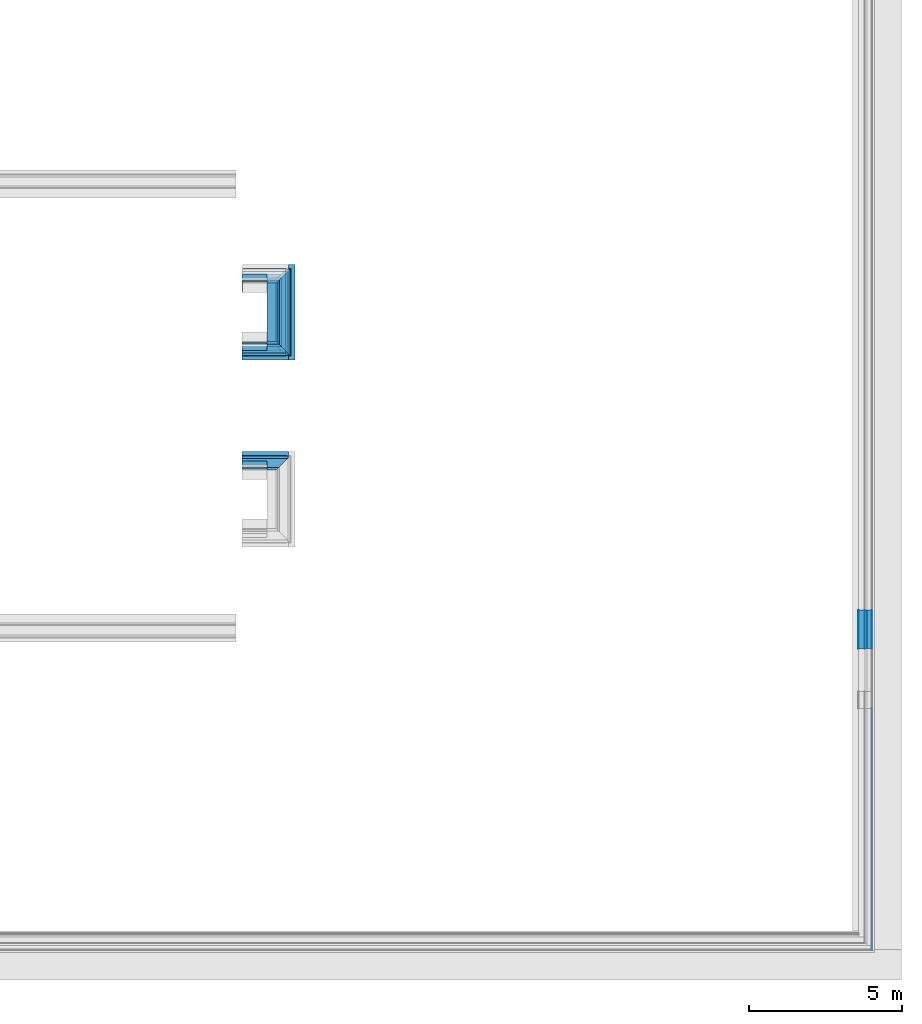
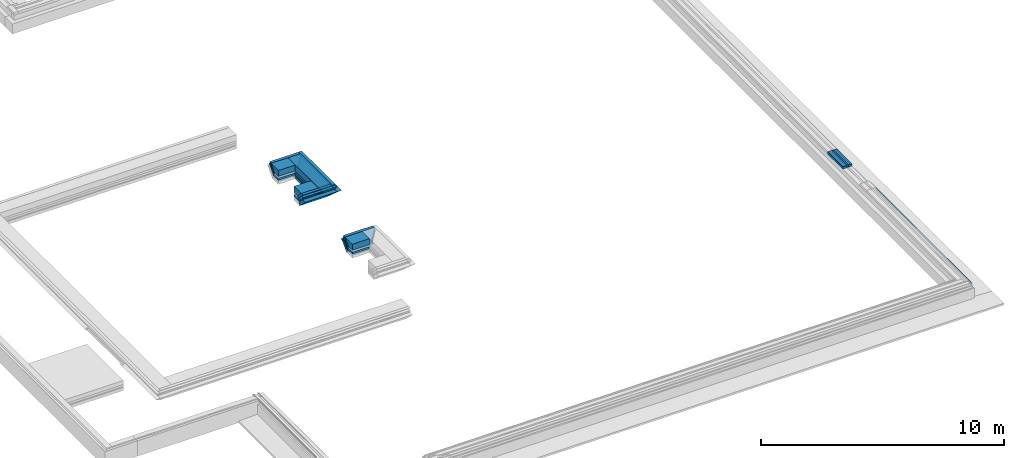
# One storey, part 10 of 17: 32 building element parts, 6 elements without a shape of their own.
"""IFC2X3 building model written with IfcOpenShell, lengths in millimetres."""

from ifc_helpers import new_model, entity, si_unit, converted_unit, derived_unit, money_unit, direction, frame, origin_with_axes, place, context, subcontext, project, spatial, faceted_brep, material, type_object, element, aggregate, save


model = new_model("IFC2X3")

# Units and contexts
model_context = context("Model", 3, precision=0.01, world=origin_with_axes(), true_north=direction((0.0, 1.0)))
body_context = subcontext(model_context, "Body", "Model", "MODEL_VIEW")
ifc_project = project(units=[si_unit("LENGTHUNIT", "METRE", prefix="MILLI"), si_unit("AREAUNIT", "SQUARE_METRE"), si_unit("VOLUMEUNIT", "CUBIC_METRE"), converted_unit("PLANEANGLEUNIT", "DEGREE", entity("IfcPlaneAngleMeasure", 0.0174532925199), si_unit("PLANEANGLEUNIT", "RADIAN"), dimensions=[0, 0, 0, 0, 0, 0, 0]), money_unit("EUR"), converted_unit("TIMEUNIT", "Year", entity("IfcTimeMeasure", 31556926.0), si_unit("TIMEUNIT", "SECOND"), dimensions=[0, 0, 1, 0, 0, 0, 0]), si_unit("MASSUNIT", "GRAM", prefix="KILO"), si_unit("THERMODYNAMICTEMPERATUREUNIT", "DEGREE_CELSIUS"), si_unit("LUMINOUSINTENSITYUNIT", "LUMEN"), si_unit("ENERGYUNIT", "JOULE", prefix="MEGA"), derived_unit("THERMALCONDUCTANCEUNIT", [(si_unit("POWERUNIT", "WATT"), 1), (si_unit("LENGTHUNIT", "METRE"), -1), (si_unit("THERMODYNAMICTEMPERATUREUNIT", "KELVIN"), -1)]), derived_unit("SPECIFICHEATCAPACITYUNIT", [(si_unit("ENERGYUNIT", "JOULE"), 1), (si_unit("MASSUNIT", "GRAM", prefix="KILO"), -1), (si_unit("THERMODYNAMICTEMPERATUREUNIT", "KELVIN"), -1)]), derived_unit("MASSDENSITYUNIT", [(si_unit("MASSUNIT", "GRAM", prefix="KILO"), 1), (si_unit("VOLUMEUNIT", "CUBIC_METRE"), -1)])], contexts=[model_context])

# Site, building, storey
site_placement = place(None, origin_with_axes())
site = spatial("IfcSite", under=ifc_project, at=site_placement, Name="Kolde pst 67a", CompositionType="ELEMENT")
building_placement = place(site_placement, origin_with_axes())
building = spatial("IfcBuilding", under=site, at=building_placement, Name="Riigigümnaasium", CompositionType="ELEMENT")
storey_placement = place(building_placement, frame((0.0, 0.0, -1500.0), z_axis=(0.0, 0.0, 1.0), x_axis=(1.0, 0.0, 0.0)))
storey = spatial("IfcBuildingStorey", under=building, at=storey_placement, Name="Vundament", CompositionType="ELEMENT", Elevation=-1500.0)

# Wall, building element parts
wall_type_1 = type_object("IfcWallType", Name="garderoobi plaadipaksendus 916 x 700", PredefinedType="NOTDEFINED")
wall_1_placement = place(storey_placement, frame((65234.9400224, 15464.9849226, 1095.0000029), z_axis=(0.0, 0.0, 1.0), x_axis=(-0.999999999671, -2.56425605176e-05, 0.0)))
wall_1 = element("IfcWall", 1, at=wall_1_placement, inside=storey, type_object=wall_type_1, Name="Vundament")
ifc_material_1 = material(Name="_KANDETARIND - monoliitne raudbetoon vastavalt EK osale")
building_element_part_1_placement = place(wall_1_placement, origin_with_axes())
building_element_part_1 = element("IfcBuildingElementPart", 2, at=building_element_part_1_placement, material=ifc_material_1, Name="_KANDETARIND - monoliitne raudbetoon vastavalt EK osale", context=body_context, shape_type="Brep", body=[
    faceted_brep([(1105.45068558, 295.0, 304.9), (1105.45068558, 295.0, 5.0), (294.998691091, 295.0, 5.0), (294.998691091, 295.0, 304.899996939), (1105.45068558, 86.6753466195, 4.99999671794), (1105.45068558, -304.9, 304.9), (1105.45068558, -5.0, 5.0), (294.999615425, 86.6753466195, 4.99999671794), (295.000022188, -5.0, 5.00000020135), (295.001352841, -304.899997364, 304.899996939)], [[[0, 1, 2, 3]], [[4, 1, 0, 5, 6]], [[1, 4, 7, 2]], [[3, 2, 7, 8, 9]], [[5, 0, 3, 9]], [[6, 5, 9, 8]], [[4, 6, 8, 7]]]),
])
ifc_material_2 = material(Name="_SOOJUSTUS - vahtpolüstüreenplaadid EPS 120 Perimeeter, survetugevus min 120kPa, veeimavus <2%, soojuserijuhtivus λD<0,036 W/(mK)")
building_element_part_2_placement = place(wall_1_placement, origin_with_axes())
building_element_part_2 = element("IfcBuildingElementPart", 3, at=building_element_part_2_placement, material=ifc_material_2, Name="_SOOJUSTUS - vahtpolüstüreenplaadid EPS 120 Perimeeter, survetugevus min 120kPa, veeimavus <2%, soojuserijuhtivus λD<0,036 W/(mK)", context=body_context, shape_type="Brep", body=[
    faceted_brep([(-87.7841283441, -87.7674389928, -195.199618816), (-87.7858266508, 294.993583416, -195.199618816), (-87.80287848, 294.993583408, -195.240796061), (-87.8011800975, -87.7845121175, -195.240796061), (-87.768755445, 294.993583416, -195.199624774), (-87.7670571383, -87.7674440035, -195.199624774), (-87.7858210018, 294.993583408, -195.240792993), (-87.7841226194, -87.7845121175, -195.240792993)], [[[0, 1, 2, 3]], [[4, 1, 0, 5]], [[1, 4, 6, 2]], [[6, 7, 3, 2]], [[5, 0, 3, 7]], [[7, 6, 4, 5]]]),
    faceted_brep([(294.992293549, 294.993602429, -95.2407929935), (1105.45068558, 294.993602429, -95.2407899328), (1105.45068558, 294.993583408, -195.240789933), (294.992274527, 294.993583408, -195.240792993), (294.993807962, -46.3219876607, -95.2407929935), (1105.45068558, -46.3219876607, -95.2407899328), (1105.45068558, -87.7845121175, -195.240789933), (294.99397291, -87.7845121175, -195.240792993)], [[[0, 1, 2, 3]], [[0, 4, 5, 1]], [[1, 5, 6, 2]], [[6, 7, 3, 2]], [[4, 0, 3, 7]], [[4, 7, 6, 5]]]),
])
building_element_part_3_placement = place(wall_1_placement, origin_with_axes())
building_element_part_3 = element("IfcBuildingElementPart", 4, at=building_element_part_3_placement, material=ifc_material_2, Name="_SOOJUSTUS - vahtpolüstüreenplaadid EPS 120 Perimeeter, survetugevus min 120kPa, veeimavus <2%, soojuserijuhtivus λD<0,036 W/(mK)", context=body_context, shape_type="Brep", body=[
    faceted_brep([(1105.45068558, -5.00000235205, 4.99999706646), (1105.45068558, -4.95922979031, 4.95922450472), (-4.9592077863, -4.95923144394, 4.95922050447), (-4.99998016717, -4.99999929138, 4.99999400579), (1105.45068558, -46.3388389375, -95.1407949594), (1105.45068558, -304.900000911, 304.899995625), (1105.45068558, -446.316090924, 304.899995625), (1105.45068558, -46.3616066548, -95.1958725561), (-46.338633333, -46.3388402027, -95.1407980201), (-4.95857985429, -146.481307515, 4.95922050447), (-4.99935223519, -146.522066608, 4.99999400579), (-304.898648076, -304.899996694, 304.899992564), (-304.898020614, -446.316086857, 304.899992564), (-46.3386329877, -46.416662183, -95.1407980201), (-46.3667023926, -46.3616066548, -95.1958725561)], [[[0, 1, 2, 3]], [[4, 1, 0, 5, 6, 7]], [[1, 4, 8, 2]], [[3, 2, 9, 10]], [[0, 3, 11, 5]], [[6, 5, 11, 12]], [[7, 6, 12, 10, 9, 13, 14]], [[4, 7, 14, 8]], [[2, 8, 13, 9]], [[3, 10, 12, 11]], [[14, 13, 8]]]),
])
building_element_part_4_placement = place(wall_1_placement, origin_with_axes())
building_element_part_4 = element("IfcBuildingElementPart", 5, at=building_element_part_4_placement, material=ifc_material_2, Name="_SOOJUSTUS - vahtpolüstüreenplaadid EPS 120 Perimeeter, survetugevus min 120kPa, veeimavus <2%, soojuserijuhtivus λD<0,036 W/(mK)", context=body_context, shape_type="Brep", body=[
    faceted_brep([(-87.7841213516, -87.7845121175, -195.199621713), (-46.3623226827, -187.784510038, -95.1996247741), (-46.3629501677, -46.3631571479, -95.1996247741), (1105.45068558, -87.7845121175, -195.199621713), (1105.45068558, -387.784135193, 104.800001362), (-246.361058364, -387.784137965, 104.799998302), (-346.361240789, -346.362774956, 204.799996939), (-346.360613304, -487.784133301, 204.799996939), (1105.45068558, -46.3631558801, -95.1996217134), (1105.45068558, -346.362777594, 204.8), (1105.45068558, -487.784133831, 204.8)], [[[0, 1, 2]], [[3, 4, 5, 1, 0]], [[6, 2, 1, 5, 7]], [[8, 3, 0, 2]], [[3, 8, 9, 10, 4]], [[4, 10, 7, 5]], [[8, 2, 6, 9]], [[10, 9, 6, 7]]]),
])
ifc_material_3 = material(Name="_TÄIDE - tasandus-/tugevduskiht, pinnasesse tambitud killustik E=80MPa, kiilutud fr 4/16")
building_element_part_5_placement = place(wall_1_placement, origin_with_axes())
building_element_part_5 = element("IfcBuildingElementPart", 6, at=building_element_part_5_placement, material=ifc_material_3, Name="_TÄIDE - tasandus-/tugevduskiht, pinnasesse tambitud killustik E=80MPa, kiilutud fr 4/16", context=body_context, shape_type="Brep", body=[
    faceted_brep([(-87.8011842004, -87.8015708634, -195.240796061), (-87.7841282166, -87.8015711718, -195.240796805), (-87.7838147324, -158.454012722, -195.240796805), (-87.8008707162, -158.454013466, -195.240796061), (1105.45068558, -87.7845147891, -195.199619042), (1105.45068558, -108.495187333, -245.199621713), (-108.494710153, -108.495186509, -245.199619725), (-87.784125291, -87.7845160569, -195.199622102), (1105.45068558, -408.494810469, 54.799999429), (-337.782320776, -408.494807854, 54.7999963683), (-87.7838115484, -158.495187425, -195.199622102), (1105.45068558, -387.784135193, 104.800001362), (1105.45068558, -458.494810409, 104.800001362), (-387.782414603, -387.784135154, 104.799998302), (-387.782097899, -458.494810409, 104.79999534)], [[[0, 1, 2, 3]], [[4, 5, 6, 1, 0, 7]], [[1, 6, 2]], [[5, 8, 9, 10, 3, 2, 6]], [[10, 7, 0, 3]], [[5, 4, 11, 12, 8]], [[4, 7, 13, 11]], [[8, 12, 14, 9]], [[7, 10, 9, 14, 13]], [[12, 11, 13, 14]]]),
])
ifc_material_4 = material(Name="_TÄIDE - tasandus-/tugevduskiht, pinnasesse tambitud killustik E=80MPa, fr 16/32")
building_element_part_6_placement = place(wall_1_placement, origin_with_axes())
building_element_part_6 = element("IfcBuildingElementPart", 7, at=building_element_part_6_placement, material=ifc_material_4, Name="_TÄIDE - tasandus-/tugevduskiht, pinnasesse tambitud killustik E=80MPa, fr 16/32", context=body_context, shape_type="Brep", body=[
    faceted_brep([(1105.45068558, -108.495191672, -245.199619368), (1105.45068558, -170.189294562, -395.24078319), (-170.188539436, -170.189295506, -395.240786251), (-108.494710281, -108.495192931, -245.199622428), (1105.45068558, -408.494810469, 54.799999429), (1105.45068558, -620.626846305, 54.799999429), (1105.45068558, -170.304905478, -395.521941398), (-170.304141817, -170.304905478, -395.521944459), (-108.493769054, -320.627226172, -245.199622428), (-170.188537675, -170.586062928, -395.240786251), (-408.492997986, -408.494807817, 54.7999963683), (-408.492056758, -620.626844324, 54.7999963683)], [[[0, 1, 2, 3]], [[1, 0, 4, 5, 6]], [[1, 6, 7, 2]], [[8, 3, 2, 9]], [[0, 3, 10, 4]], [[5, 4, 10, 11]], [[8, 9, 7, 6, 5, 11]], [[2, 7, 9]], [[3, 8, 11, 10]]]),
])
aggregate(wall_1, [building_element_part_1, building_element_part_2, building_element_part_3, building_element_part_4, building_element_part_5, building_element_part_6])

wall_2_placement = place(storey_placement, frame((65234.813517, 19675.0828991, 1094.99999984), z_axis=(0.0, 0.0, 1.0), x_axis=(-3.00546824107e-05, 0.999999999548, 0.0)))
wall_2 = element("IfcWall", 8, at=wall_2_placement, inside=storey, type_object=wall_type_1, Name="Vundament")
building_element_part_7_placement = place(wall_2_placement, origin_with_axes())
building_element_part_7 = element("IfcBuildingElementPart", 9, at=building_element_part_7_placement, material=ifc_material_1, Name="_KANDETARIND - monoliitne raudbetoon vastavalt EK osale", context=body_context, shape_type="Brep", body=[
    faceted_brep([(-4.99999139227, 295.0, 5.0), (-304.899990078, 295.0, 304.899998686), (2194.85716906, 295.0, 304.899998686), (1894.95717038, 295.0, 5.0), (-4.99999576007, 86.6753466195, 4.99999671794), (-5.00000109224, -5.00000000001, 4.99999868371), (-304.900012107, -304.899995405, 304.899998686), (2194.85714703, -304.899995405, 304.899998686), (1894.95715936, -5.00000000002, 5.0), (1894.95715944, 86.6753466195, 4.99999671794)], [[[0, 1, 2, 3]], [[1, 0, 4, 5, 6]], [[2, 1, 6, 7]], [[3, 2, 7, 8, 9]], [[0, 3, 9, 4]], [[4, 9, 8, 5]], [[6, 5, 8, 7]]]),
])
building_element_part_8_placement = place(wall_2_placement, origin_with_axes())
building_element_part_8 = element("IfcBuildingElementPart", 10, at=building_element_part_8_placement, material=ifc_material_2, Name="_SOOJUSTUS - vahtpolüstüreenplaadid EPS 120 Perimeeter, survetugevus min 120kPa, veeimavus <2%, soojuserijuhtivus λD<0,036 W/(mK)", context=body_context, shape_type="Brep", body=[
    faceted_brep([(-46.3388273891, 294.993597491, -95.1407918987), (1936.29600637, 294.993597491, -95.1407918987), (1936.29599384, -46.3388376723, -95.1407918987), (-46.3388399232, -46.3388376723, -95.1407918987), (-4.95921895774, 294.997848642, 4.95922662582), (86.6717528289, 294.997850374, 4.99999671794), (1803.28542615, 294.997850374, 4.99999671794), (1894.91639794, 294.997848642, 4.95922662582), (1894.9163879, -4.95922611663, 4.95922427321), (-4.95923094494, -4.95922611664, 4.95922427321), (86.6753439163, 86.6753466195, 4.99999751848), (1803.28181977, 86.6753466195, 4.99999751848)], [[[0, 1, 2, 3]], [[4, 5, 6, 7, 1, 0]], [[1, 7, 8, 2]], [[8, 9, 3, 2]], [[4, 0, 3, 9]], [[5, 4, 9, 10]], [[6, 5, 10, 11]], [[7, 6, 11, 8]], [[9, 8, 11, 10]]]),
])
building_element_part_9_placement = place(wall_2_placement, origin_with_axes())
building_element_part_9 = element("IfcBuildingElementPart", 11, at=building_element_part_9_placement, material=ifc_material_2, Name="_SOOJUSTUS - vahtpolüstüreenplaadid EPS 120 Perimeeter, survetugevus min 120kPa, veeimavus <2%, soojuserijuhtivus λD<0,036 W/(mK)", context=body_context, shape_type="Brep", body=[
    faceted_brep([(1977.74168592, 294.993583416, -195.199612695), (1977.74167186, -87.7674396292, -195.199612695), (1977.75872369, -87.7845121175, -195.24078994), (1977.75873775, 294.993583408, -195.24078994), (1977.72460066, -87.7674414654, -195.199618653), (1977.72461471, 294.993583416, -195.199618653), (1936.27914935, -46.3219876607, -95.240790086), (-46.321995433, -46.3219876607, -95.240790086), (-87.7674497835, -87.7674414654, -195.199618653), (-87.7845209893, -87.7674389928, -195.199612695), (-87.8015728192, -87.7845121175, -195.24078994), (-87.8015587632, 294.993583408, -195.24078994), (-87.784506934, 294.993583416, -195.199612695), (-87.7674357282, 294.993583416, -195.199618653), (-46.3219828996, 294.993602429, -95.240790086), (1936.27916188, 294.993602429, -95.240790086)], [[[0, 1, 2, 3]], [[4, 1, 0, 5]], [[4, 6, 7, 8, 9, 10, 2, 1]], [[3, 2, 10, 11]], [[5, 0, 3, 11, 12, 13, 14, 15]], [[6, 4, 5, 15]], [[6, 15, 14, 7]], [[8, 7, 14, 13]], [[9, 8, 13, 12]], [[9, 12, 11, 10]]]),
])
building_element_part_10_placement = place(wall_2_placement, origin_with_axes())
building_element_part_10 = element("IfcBuildingElementPart", 12, at=building_element_part_10_placement, material=ifc_material_3, Name="_TÄIDE - tasandus-/tugevduskiht, pinnasesse tambitud killustik E=80MPa, kiilutud fr 4/16", context=body_context, shape_type="Brep", body=[
    faceted_brep([(-108.512109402, 294.993573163, -245.240786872), (1998.46928839, 294.993573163, -245.240786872), (1998.46927357, -108.512245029, -245.240786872), (-108.512124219, -108.512245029, -245.240786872), (-108.49518084, 294.993573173, -245.199616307), (-87.7845079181, 294.993584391, -195.240793), (1977.7416869, 294.993584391, -195.240793), (1998.45235982, 294.993573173, -245.199616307), (1998.45234501, -108.495190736, -245.199616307), (-108.495195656, -108.495190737, -245.199616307), (-87.7845219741, -87.7845113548, -195.240793), (1977.74167285, -87.7845113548, -195.240793)], [[[0, 1, 2, 3]], [[1, 0, 4, 5, 6, 7]], [[1, 7, 8, 2]], [[2, 8, 9, 3]], [[4, 0, 3, 9]], [[5, 4, 9, 10]], [[11, 6, 5, 10]], [[7, 6, 11, 8]], [[11, 10, 9, 8]]]),
])
building_element_part_11_placement = place(wall_2_placement, origin_with_axes())
building_element_part_11 = element("IfcBuildingElementPart", 13, at=building_element_part_11_placement, material=ifc_material_4, Name="_TÄIDE - tasandus-/tugevduskiht, pinnasesse tambitud killustik E=80MPa, fr 16/32", context=body_context, shape_type="Brep", body=[
    faceted_brep([(2060.14646271, 294.99354324, -395.24078013), (2060.14644563, -170.189294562, -395.24078013), (-170.189300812, -170.189294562, -395.24078013), (-170.18928373, 294.99354324, -395.24078013), (1998.46927357, -108.512240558, -245.240786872), (1998.46928839, 294.993570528, -245.240786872), (-108.512124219, -108.512240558, -245.240786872), (-108.512109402, 294.993570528, -245.240786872)], [[[0, 1, 2, 3]], [[4, 1, 0, 5]], [[1, 4, 6, 2]], [[3, 2, 6, 7]], [[5, 0, 3, 7]], [[4, 5, 7, 6]]]),
])
building_element_part_12_placement = place(wall_2_placement, origin_with_axes())
building_element_part_12 = element("IfcBuildingElementPart", 14, at=building_element_part_12_placement, material=ifc_material_2, Name="_SOOJUSTUS - vahtpolüstüreenplaadid EPS 120 Perimeeter, survetugevus min 120kPa, veeimavus <2%, soojuserijuhtivus λD<0,036 W/(mK)", context=body_context, shape_type="Brep", body=[
    faceted_brep([(-46.4219812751, -46.3388389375, -95.1407949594), (-146.481313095, -4.95923544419, 4.95923015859), (2036.4384644, -4.95922979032, 4.95922450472), (1936.37913825, -46.3388376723, -95.1407918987), (-46.4219843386, -46.4166713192, -95.1407918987), (-146.481318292, -146.481318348, 4.95923015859), (-146.522066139, -5.00000235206, 4.99999706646), (2036.47922306, -5.00000235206, 4.99999706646), (1936.37913825, -46.4166713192, -95.1407918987), (2036.43846485, -146.481318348, 4.95923015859), (-46.3669036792, -46.3616066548, -95.1958725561), (1936.32405759, -46.3616066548, -95.1958725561), (2336.27322178, -446.316090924, 304.90000478), (-446.316097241, -446.316090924, 304.90000478), (-446.316092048, -304.900000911, 304.90000478), (-346.25148138, -204.800010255, 204.800004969), (2336.27322697, -304.900000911, 304.90000478), (2236.20862366, -204.800010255, 204.800004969)], [[[0, 1, 2, 3]], [[1, 0, 4, 5]], [[1, 6, 7, 2]], [[8, 3, 2, 9]], [[10, 0, 3, 11]], [[0, 10, 4]], [[11, 8, 9, 12, 13, 5, 4, 10]], [[6, 1, 5, 13, 14, 15]], [[7, 6, 15, 14, 16, 17]], [[2, 7, 17, 16, 12, 9]], [[8, 11, 3]], [[14, 13, 12, 16]]]),
])
building_element_part_13_placement = place(wall_2_placement, origin_with_axes())
building_element_part_13 = element("IfcBuildingElementPart", 15, at=building_element_part_13_placement, material=ifc_material_2, Name="_SOOJUSTUS - vahtpolüstüreenplaadid EPS 120 Perimeeter, survetugevus min 120kPa, veeimavus <2%, soojuserijuhtivus λD<0,036 W/(mK)", context=body_context, shape_type="Brep", body=[
    faceted_brep([(-87.7845180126, -87.7845108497, -195.199618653), (-187.784510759, -46.3631558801, -95.1996217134), (2077.74166467, -46.3631558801, -95.1996217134), (1977.74166888, -87.7845108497, -195.199618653), (-387.784153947, -387.784135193, 104.799999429), (-487.784163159, -487.784133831, 204.800004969), (-487.784157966, -346.362777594, 204.800004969), (2377.74128985, -346.362777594, 204.800004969), (2377.74128465, -487.784133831, 204.800004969), (2277.74128279, -387.784135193, 104.799999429)], [[[0, 1, 2, 3]], [[1, 0, 4, 5, 6]], [[1, 6, 7, 2]], [[3, 2, 7, 8, 9]], [[0, 3, 9, 4]], [[5, 4, 9, 8]], [[6, 5, 8, 7]]]),
])
building_element_part_14_placement = place(wall_2_placement, origin_with_axes())
building_element_part_14 = element("IfcBuildingElementPart", 16, at=building_element_part_14_placement, material=ifc_material_3, Name="_TÄIDE - tasandus-/tugevduskiht, pinnasesse tambitud killustik E=80MPa, kiilutud fr 4/16", context=body_context, shape_type="Brep", body=[
    faceted_brep([(-87.7845210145, -87.8015686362, -195.240790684), (-87.8015769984, -87.8015683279, -195.24078994), (-108.495195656, -108.495186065, -245.199618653), (-158.495192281, -87.7845147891, -195.199619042), (2048.45234291, -87.7845147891, -195.199619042), (1998.45234488, -108.495183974, -245.199613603), (1977.75872787, -87.8015683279, -195.24078994), (1977.74167188, -87.8015686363, -195.240790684), (1998.45234488, -108.495183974, -245.199613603), (-108.495195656, -108.495186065, -245.199618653), (-87.7845236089, -158.454017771, -195.240790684), (-87.8015795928, -158.454018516, -195.24078994), (-408.494821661, -408.494810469, 54.8000049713), (-458.494817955, -458.494810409, 104.799999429), (-458.494815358, -387.784135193, 104.799999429), (2348.4519442, -387.784135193, 104.799999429), (2348.4519416, -458.494810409, 104.799999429), (2298.45194898, -408.494810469, 54.8000049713), (1977.75872527, -158.454018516, -195.24078994), (1977.74166929, -158.454017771, -195.240790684)], [[[0, 1, 2, 3, 4, 5, 6, 7, 8, 9]], [[1, 0, 10, 11]], [[2, 1, 11]], [[3, 2, 12, 13, 14]], [[4, 3, 14, 15]], [[5, 4, 15, 16, 17]], [[6, 5, 18]], [[7, 6, 18, 19]], [[8, 7, 19]], [[9, 8, 19, 18, 5, 17, 12, 2, 11, 10]], [[0, 9, 10]], [[13, 12, 17, 16]], [[14, 13, 16, 15]]]),
])
building_element_part_15_placement = place(wall_2_placement, origin_with_axes())
building_element_part_15 = element("IfcBuildingElementPart", 17, at=building_element_part_15_placement, material=ifc_material_4, Name="_TÄIDE - tasandus-/tugevduskiht, pinnasesse tambitud killustik E=80MPa, fr 16/32", context=body_context, shape_type="Brep", body=[
    faceted_brep([(2060.26204852, -170.304905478, -395.521938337), (2510.58397529, -620.626846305, 54.8000049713), (-620.626863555, -620.626846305, 54.8000049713), (-170.30490371, -170.304905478, -395.521938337), (2510.58398308, -408.494810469, 54.8000049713), (2060.54320367, -170.189294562, -395.24078319), (2210.58436976, -108.495191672, -245.199619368), (-620.626855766, -408.494810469, 54.8000049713), (-320.627220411, -108.495191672, -245.199619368), (-170.586058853, -170.189294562, -395.24078319)], [[[0, 1, 2, 3]], [[4, 1, 0, 5, 6]], [[1, 4, 7, 2]], [[3, 2, 7, 8, 9]], [[5, 0, 3, 9]], [[6, 5, 9, 8]], [[4, 6, 8, 7]]]),
])
aggregate(wall_2, [building_element_part_7, building_element_part_8, building_element_part_9, building_element_part_10, building_element_part_11, building_element_part_12, building_element_part_13, building_element_part_14, building_element_part_15])

wall_3_placement = place(storey_placement, frame((64129.5733688, 19675.049722, 1095.0000029), z_axis=(0.0, 0.0, 1.0), x_axis=(0.999999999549, 3.00179615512e-05, 0.0)))
wall_3 = element("IfcWall", 18, at=wall_3_placement, inside=storey, type_object=wall_type_1, Name="Vundament")
building_element_part_16_placement = place(wall_3_placement, origin_with_axes())
building_element_part_16 = element("IfcBuildingElementPart", 19, at=building_element_part_16_placement, material=ifc_material_1, Name="_KANDETARIND - monoliitne raudbetoon vastavalt EK osale", context=body_context, shape_type="Brep", body=[
    faceted_brep([(0.0, -304.9, 304.9), (0.0, -5.0, 5.0), (810.240148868, -5.0, 5.0), (810.24015988, -304.899997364, 304.899996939), (0.0, 86.6753466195, 4.99999671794), (0.0, 295.0, 304.9), (0.0, 295.0, 5.0), (810.240145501, 86.6753466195, 4.99999671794), (810.240137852, 295.0, 5.0), (810.240137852, 295.0, 304.899996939)], [[[0, 1, 2, 3]], [[4, 1, 0, 5, 6]], [[1, 4, 7, 2]], [[2, 7, 8, 9, 3]], [[5, 0, 3, 9]], [[6, 5, 9, 8]], [[4, 6, 8, 7]]]),
])
building_element_part_17_placement = place(wall_3_placement, origin_with_axes())
building_element_part_17 = element("IfcBuildingElementPart", 20, at=building_element_part_17_placement, material=ifc_material_2, Name="_SOOJUSTUS - vahtpolüstüreenplaadid EPS 120 Perimeeter, survetugevus min 120kPa, veeimavus <2%, soojuserijuhtivus λD<0,036 W/(mK)", context=body_context, shape_type="Brep", body=[
    faceted_brep([(1193.02465562, 294.993583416, -195.199618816), (1193.02466967, -87.7674396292, -195.199618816), (1193.0417215, -87.7845121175, -195.240796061), (1193.04170745, 294.993583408, -195.240796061), (1193.00759847, -87.7674440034, -195.199624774), (1193.00758441, 294.993583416, -195.199624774), (1193.02466403, -87.7845121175, -195.240792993), (1193.02464997, 294.993583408, -195.240792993)], [[[0, 1, 2, 3]], [[4, 1, 0, 5]], [[1, 4, 6, 2]], [[6, 7, 3, 2]], [[5, 0, 3, 7]], [[7, 6, 4, 5]]]),
    faceted_brep([(810.246547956, -46.3219876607, -95.2407929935), (0.0, -46.3219876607, -95.2407899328), (0.0, -87.7845121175, -195.240789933), (810.2465685, -87.7845121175, -195.240792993), (810.246535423, 294.993602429, -95.2407929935), (0.0, 294.993602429, -95.2407899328), (0.0, 294.993583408, -195.240789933), (810.246554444, 294.993583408, -195.240792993)], [[[0, 1, 2, 3]], [[0, 4, 5, 1]], [[2, 1, 5, 6]], [[6, 7, 3, 2]], [[4, 0, 3, 7]], [[4, 7, 6, 5]]]),
])
building_element_part_18_placement = place(wall_3_placement, origin_with_axes())
building_element_part_18 = element("IfcBuildingElementPart", 21, at=building_element_part_18_placement, material=ifc_material_2, Name="_SOOJUSTUS - vahtpolüstüreenplaadid EPS 120 Perimeeter, survetugevus min 120kPa, veeimavus <2%, soojuserijuhtivus λD<0,036 W/(mK)", context=body_context, shape_type="Brep", body=[
    faceted_brep([(0.0, -446.316090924, 304.899995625), (0.0, -46.3616066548, -95.1958725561), (1151.60705848, -46.3616066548, -95.1958725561), (1151.57898933, -46.416662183, -95.1407980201), (1110.19938397, -146.481307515, 4.95922050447), (1110.24015642, -146.522066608, 4.99999400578), (1410.14016598, -446.316086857, 304.899992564), (0.0, -304.900000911, 304.899995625), (0.0, -5.00000235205, 4.99999706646), (0.0, -4.95922979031, 4.95922450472), (0.0, -46.3388389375, -95.1407949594), (1151.57898932, -46.3388402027, -95.1407980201), (1110.19937876, -4.95923144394, 4.95922050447), (1110.24015122, -4.99999929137, 4.99999400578), (1410.14016079, -304.899996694, 304.899992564)], [[[0, 1, 2, 3, 4, 5, 6]], [[1, 0, 7, 8, 9, 10]], [[1, 10, 11, 2]], [[3, 2, 11]], [[4, 3, 11, 12]], [[5, 4, 12, 13]], [[6, 5, 13, 14]], [[7, 0, 6, 14]], [[8, 7, 14, 13]], [[9, 8, 13, 12]], [[10, 9, 12, 11]]]),
])
building_element_part_19_placement = place(wall_3_placement, origin_with_axes())
building_element_part_19 = element("IfcBuildingElementPart", 22, at=building_element_part_19_placement, material=ifc_material_2, Name="_SOOJUSTUS - vahtpolüstüreenplaadid EPS 120 Perimeeter, survetugevus min 120kPa, veeimavus <2%, soojuserijuhtivus λD<0,036 W/(mK)", context=body_context, shape_type="Brep", body=[
    faceted_brep([(0.0, -387.784135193, 104.800001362), (0.0, -487.784133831, 204.8), (0.0, -346.362777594, 204.8), (0.0, -46.3631558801, -95.1996217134), (0.0, -87.7845121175, -195.199621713), (1351.6029412, -387.784135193, 104.799997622), (1451.60294419, -487.7841333, 204.799996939), (1451.602939, -346.362774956, 204.799996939), (1151.60330627, -46.3631571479, -95.1996247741), (1193.02466276, -87.7845121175, -195.199621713), (1151.60331146, -187.784510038, -95.1996247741)], [[[0, 1, 2, 3, 4]], [[1, 0, 5, 6]], [[2, 1, 6, 7]], [[3, 2, 7, 8]], [[4, 3, 8, 9]], [[0, 4, 9, 10, 5]], [[5, 10, 8, 7, 6]], [[9, 8, 10]]]),
])
building_element_part_20_placement = place(wall_3_placement, origin_with_axes())
building_element_part_20 = element("IfcBuildingElementPart", 23, at=building_element_part_20_placement, material=ifc_material_3, Name="_TÄIDE - tasandus-/tugevduskiht, pinnasesse tambitud killustik E=80MPa, kiilutud fr 4/16", context=body_context, shape_type="Brep", body=[
    faceted_brep([(0.0, -408.494810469, 54.799999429), (0.0, -458.494810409, 104.800001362), (0.0, -387.784135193, 104.800001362), (0.0, -87.7845147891, -195.199619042), (0.0, -108.495187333, -245.199621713), (1443.02429694, -408.494807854, 54.7999963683), (1493.02429608, -458.494810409, 104.799993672), (1493.02429812, -387.784135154, 104.799998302), (1193.0246667, -87.7845160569, -195.199622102), (1193.04172568, -87.8015708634, -195.240796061), (1193.0246697, -87.8015711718, -195.240796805), (1213.73534421, -108.495186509, -245.199619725), (1193.02467229, -158.454012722, -195.240796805), (1193.04172828, -158.454013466, -195.240796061), (1193.02466929, -158.495187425, -195.199622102)], [[[0, 1, 2, 3, 4]], [[1, 0, 5, 6]], [[2, 1, 6, 7]], [[3, 2, 7, 8]], [[4, 3, 8, 9, 10, 11]], [[0, 4, 11, 12, 13, 14, 5]], [[14, 8, 7, 6, 5]], [[8, 14, 13, 9]], [[13, 12, 10, 9]], [[12, 11, 10]]]),
])
building_element_part_21_placement = place(wall_3_placement, origin_with_axes())
building_element_part_21 = element("IfcBuildingElementPart", 24, at=building_element_part_21_placement, material=ifc_material_4, Name="_TÄIDE - tasandus-/tugevduskiht, pinnasesse tambitud killustik E=80MPa, fr 16/32", context=body_context, shape_type="Brep", body=[
    faceted_brep([(0.0, -620.626846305, 54.799999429), (0.0, -170.304905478, -395.521941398), (1275.54505239, -170.304905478, -395.521944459), (1275.42944951, -170.586062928, -395.240786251), (1213.73535213, -320.627226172, -245.199622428), (1513.73498194, -620.626844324, 54.7999963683), (0.0, -408.494810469, 54.799999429), (0.0, -108.495191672, -245.199619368), (0.0, -170.189294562, -395.24078319), (1275.4294495, -170.189295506, -395.240786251), (1213.73534434, -108.495193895, -245.199624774), (1513.73497415, -408.494807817, 54.7999963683)], [[[0, 1, 2, 3, 4, 5]], [[1, 0, 6, 7, 8]], [[1, 8, 9, 2]], [[2, 9, 3]], [[10, 4, 3, 9]], [[4, 10, 11, 5]], [[6, 0, 5, 11]], [[7, 6, 11, 10]], [[8, 7, 10, 9]]]),
])
aggregate(wall_3, [building_element_part_16, building_element_part_17, building_element_part_18, building_element_part_19, building_element_part_20, building_element_part_21])

wall_4_placement = place(storey_placement, frame((65234.7567149, 21565.0400555, 1095.0000029), z_axis=(0.0, 0.0, 1.0), x_axis=(-0.999999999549, -3.00179615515e-05, 0.0)))
wall_4 = element("IfcWall", 25, at=wall_4_placement, inside=storey, type_object=wall_type_1, Name="Vundament")
building_element_part_22_placement = place(wall_4_placement, origin_with_axes())
building_element_part_22 = element("IfcBuildingElementPart", 26, at=building_element_part_22_placement, material=ifc_material_1, Name="_KANDETARIND - monoliitne raudbetoon vastavalt EK osale", context=body_context, shape_type="Brep", body=[
    faceted_brep([(1095.13319922, 295.0, 5.0), (1095.13321205, 86.6753466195, 4.99999671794), (294.999996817, 86.6753466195, 4.99999671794), (294.999989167, 295.0, 5.0), (1095.1332177, -5.00000000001, 5.00000000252), (1095.13319922, 295.0, 304.899999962), (1095.13323617, -304.899999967, 304.899999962), (295.000000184, -5.0, 5.00000020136), (295.000011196, -304.899997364, 304.899996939), (294.999989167, 295.0, 304.899996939)], [[[0, 1, 2, 3]], [[4, 1, 0, 5, 6]], [[1, 4, 7, 2]], [[8, 9, 3, 2, 7]], [[5, 0, 3, 9]], [[6, 5, 9, 8]], [[4, 6, 8, 7]]]),
])
building_element_part_23_placement = place(wall_4_placement, origin_with_axes())
building_element_part_23 = element("IfcBuildingElementPart", 27, at=building_element_part_23_placement, material=ifc_material_2, Name="_SOOJUSTUS - vahtpolüstüreenplaadid EPS 120 Perimeeter, survetugevus min 120kPa, veeimavus <2%, soojuserijuhtivus λD<0,036 W/(mK)", context=body_context, shape_type="Brep", body=[
    faceted_brep([(1095.13322024, -46.3219876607, -95.2407899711), (1095.13319922, 294.993602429, -95.2407899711), (294.993591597, 294.993602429, -95.2407929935), (294.99360413, -46.3219876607, -95.2407929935), (1095.13319922, 294.993598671, -115.000002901), (1095.13322075, -54.514654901, -115.000002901), (1105.26673559, 294.993598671, -115.000002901), (1105.26673559, 294.993583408, -195.240789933), (294.993572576, 294.993583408, -195.240792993), (294.993586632, -87.7845121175, -195.240792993), (1105.26673559, -87.7845121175, -195.240789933), (1105.26673559, -54.51465617, -115.000002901)], [[[0, 1, 2, 3]], [[4, 1, 0, 5]], [[4, 6, 7, 8, 2, 1]], [[9, 3, 2, 8]], [[5, 0, 3, 9, 10, 11]], [[4, 5, 11, 6]], [[6, 11, 10, 7]], [[7, 10, 9, 8]]]),
    faceted_brep([(-87.7845145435, -87.7674389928, -195.199618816), (-87.7845285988, 294.993583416, -195.199618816), (-87.8015804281, 294.993583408, -195.240796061), (-87.8015663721, -87.7845121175, -195.240796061), (-87.7674573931, 294.993583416, -195.199624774), (-87.7674433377, -87.7674440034, -195.199624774), (-87.7845229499, 294.993583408, -195.240792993), (-87.7845088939, -87.7845121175, -195.240792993)], [[[0, 1, 2, 3]], [[4, 1, 0, 5]], [[1, 4, 6, 2]], [[6, 7, 3, 2]], [[5, 0, 3, 7]], [[7, 6, 4, 5]]]),
])
building_element_part_24_placement = place(wall_4_placement, origin_with_axes())
building_element_part_24 = element("IfcBuildingElementPart", 28, at=building_element_part_24_placement, material=ifc_material_2, Name="_SOOJUSTUS - vahtpolüstüreenplaadid EPS 120 Perimeeter, survetugevus min 120kPa, veeimavus <2%, soojuserijuhtivus λD<0,036 W/(mK)", context=body_context, shape_type="Brep", body=[
    faceted_brep([(1095.13324488, -446.316090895, 304.899995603), (1095.13323617, -304.90000088, 304.899995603), (-304.899989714, -304.899996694, 304.899992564), (-304.899984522, -446.316086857, 304.899992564), (1095.1332177, -5.00000232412, 4.99999703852), (1095.13322025, -46.3616066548, -95.1958725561), (1095.13322024, -46.3388389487, -95.1407949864), (1095.1332177, -4.9592298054, 4.9592244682), (-5.00000216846, -4.99999929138, 4.99999400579), (-4.99999697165, -146.522066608, 4.99999400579), (-4.95922452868, -146.481307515, 4.95922050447), (-46.3388372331, -46.416662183, -95.1407980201), (-46.3669063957, -46.3616066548, -95.1958725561), (-46.3388372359, -46.3388402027, -95.1407980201), (-4.95922971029, -4.95923144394, 4.95922050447)], [[[0, 1, 2, 3]], [[4, 1, 0, 5, 6, 7]], [[1, 4, 8, 2]], [[2, 8, 9, 3]], [[5, 0, 3, 9, 10, 11, 12]], [[6, 5, 12, 13]], [[7, 6, 13, 14]], [[4, 7, 14, 8]], [[9, 8, 14, 10]], [[10, 14, 13, 11]], [[13, 12, 11]]]),
])
building_element_part_25_placement = place(wall_4_placement, origin_with_axes())
building_element_part_25 = element("IfcBuildingElementPart", 29, at=building_element_part_25_placement, material=ifc_material_2, Name="_SOOJUSTUS - vahtpolüstüreenplaadid EPS 120 Perimeeter, survetugevus min 120kPa, veeimavus <2%, soojuserijuhtivus λD<0,036 W/(mK)", context=body_context, shape_type="Brep", body=[
    faceted_brep([(1095.13324743, -487.784133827, 204.799999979), (1095.13323872, -346.362777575, 204.799999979), (-346.362764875, -346.362774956, 204.799996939), (-346.362759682, -487.7841333, 204.799996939), (1095.13322025, -46.3631558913, -95.1996217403), (1095.13324127, -387.784135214, 104.800001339), (1095.13322774, -167.984131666, -115.000002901), (1095.13322075, -54.5647423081, -115.000002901), (-46.3631541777, -46.3631571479, -95.1996247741), (-46.3631489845, -187.784510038, -95.1996247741), (-246.362764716, -387.784137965, 104.799998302), (-87.7845085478, -87.7845121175, -195.199621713), (1105.26673559, -87.7845121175, -195.199621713), (1105.26673559, -167.98413093, -115.000002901), (1105.26673559, -54.5647423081, -115.000002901)], [[[0, 1, 2, 3]], [[4, 1, 0, 5, 6, 7]], [[1, 4, 8, 2]], [[3, 2, 8, 9, 10]], [[5, 0, 3, 10]], [[6, 5, 10, 9, 11, 12, 13]], [[7, 6, 13, 14]], [[7, 14, 12, 11, 8, 4]], [[8, 11, 9]], [[14, 13, 12]]]),
])
aggregate(wall_4, [building_element_part_22, building_element_part_23, building_element_part_24, building_element_part_25])

# Wall, building element part
wall_type_2 = type_object("IfcWallType", Name="VS-CLT-20/3_sokkel 433", PredefinedType="NOTDEFINED")
wall_5_placement = place(storey_placement, frame((84439.9993279, 40.0, 1480.0), z_axis=(0.0, 0.0, 1.0), x_axis=(0.0, 1.0, 0.0)))
wall_5 = element("IfcWall", 30, at=wall_5_placement, inside=storey, type_object=wall_type_2, Name="Sokkel")
ifc_material_5 = material(Name="_TUULETÕKE - sokli krohv, silikoonvaikkrohv Weber.pas 481 AquaBalance 1mm \"scratch\" viimistlus, toon helehall CL444 (S 3502-Y) * 35, SILS süsteem, või samaväärne")
building_element_part_26_placement = place(wall_5_placement, origin_with_axes())
building_element_part_26 = element("IfcBuildingElementPart", 31, at=building_element_part_26_placement, material=ifc_material_5, Name="_TUULETÕKE - sokli krohv, silikoonvaikkrohv Weber.pas 481 AquaBalance 1mm \"scratch\" viimistlus, toon helehall CL444 (S 3502-Y) * 35, SILS süsteem, või samaväärne", context=body_context, shape_type="Brep", body=[
    faceted_brep([(7659.9736286, -223.0, 0.0), (7659.9736286, -233.0, 0.0), (-223.0, -233.0, 0.0), (-223.0, -223.0, 0.0), (7659.9736286, -223.0, 120.0000017), (7659.9736286, -233.0, 120.0000017), (-223.0, -233.0, 120.0000017), (-223.0, -223.0, 120.0000017)], [[[0, 1, 2, 3]], [[0, 4, 5, 1]], [[1, 5, 6, 2]], [[3, 2, 6, 7]], [[4, 0, 3, 7]], [[5, 4, 7, 6]]]),
])
aggregate(wall_5, [building_element_part_26])

# Wall, building element parts
wall_type_3 = type_object("IfcWallType", Name="VS-RB-20/2_sokkel  443", PredefinedType="NOTDEFINED")
wall_6_placement = place(storey_placement, frame((84439.9993279, 9651.01071067, 1480.0), z_axis=(0.0, 0.0, 1.0), x_axis=(0.0, 1.0, 0.0)))
wall_6 = element("IfcWall", 32, at=wall_6_placement, inside=storey, type_object=wall_type_3, Name="Sokkel")
ifc_material_6 = material(Name="_VIIMISTLUSKIHT - viimistlus vastavalt SA osale")
building_element_part_27_placement = place(wall_6_placement, origin_with_axes())
building_element_part_27 = element("IfcBuildingElementPart", 33, at=building_element_part_27_placement, material=ifc_material_6, Name="_VIIMISTLUSKIHT - viimistlus vastavalt SA osale", context=body_context, shape_type="Brep", body=[
    faceted_brep([(1248.95123003, 210.0, 0.0), (1248.95123003, 200.0, 0.0), (0.0, 200.0, 0.0), (0.0, 210.0, 0.0), (1248.95123003, 210.0, 120.0), (1248.95123003, 200.0, 120.0), (0.0, 200.0, 120.0), (0.0, 210.0, 120.0)], [[[0, 1, 2, 3]], [[0, 4, 5, 1]], [[1, 5, 6, 2]], [[3, 2, 6, 7]], [[4, 0, 3, 7]], [[5, 4, 7, 6]]]),
])
ifc_material_7 = material(Name="_KANDETARIND - monteeritav raudbetoon vastavalt EK osale")
building_element_part_28_placement = place(wall_6_placement, origin_with_axes())
building_element_part_28 = element("IfcBuildingElementPart", 34, at=building_element_part_28_placement, material=ifc_material_7, Name="_KANDETARIND - monteeritav raudbetoon vastavalt EK osale", context=body_context, shape_type="Brep", body=[
    faceted_brep([(1248.95123003, 200.0, 0.0), (1248.95123003, 0.0, 0.0), (0.0, 0.0, 0.0), (0.0, 200.0, 0.0), (1248.95123003, 200.0, 120.0), (1248.95123003, 0.0, 120.0), (0.0, 0.0, 120.0), (0.0, 200.0, 120.0)], [[[0, 1, 2, 3]], [[0, 4, 5, 1]], [[1, 5, 6, 2]], [[3, 2, 6, 7]], [[4, 0, 3, 7]], [[5, 4, 7, 6]]]),
])
ifc_material_8 = material(Name="_HÜDROISOLATSIOON - 3x SBS rullmaterjal vastavalt TL2 nõuetele, nakke tugevduseks betoonpind eelnevalt katta hüdroisolatsiooni bituumenvõõbaga")
building_element_part_29_placement = place(wall_6_placement, origin_with_axes())
building_element_part_29 = element("IfcBuildingElementPart", 35, at=building_element_part_29_placement, material=ifc_material_8, Name="_HÜDROISOLATSIOON - 3x SBS rullmaterjal vastavalt TL2 nõuetele, nakke tugevduseks betoonpind eelnevalt katta hüdroisolatsiooni bituumenvõõbaga", context=body_context, shape_type="Brep", body=[
    faceted_brep([(1248.95123003, 0.0, 0.0), (1248.95123003, -3.0, 0.0), (0.0, -3.0, 0.0), (0.0, 0.0, 0.0), (1248.95123003, 0.0, 120.0), (1248.95123003, -3.0, 120.0), (0.0, -3.0, 120.0), (0.0, 0.0, 120.0)], [[[0, 1, 2, 3]], [[0, 4, 5, 1]], [[1, 5, 6, 2]], [[3, 2, 6, 7]], [[4, 0, 3, 7]], [[5, 4, 7, 6]]]),
])
ifc_material_9 = material(Name="_SOOJUSTUS - ekstrudeeritud polüstüreenist plaadid XPS 250, survetugevus min 250kPa, soojuserijuhtivus λD<0,036 W/(mK), veeimavus alla 0,2%, näiteks XPS 250 foam SL või samaväärne")
building_element_part_30_placement = place(wall_6_placement, origin_with_axes())
building_element_part_30 = element("IfcBuildingElementPart", 36, at=building_element_part_30_placement, material=ifc_material_9, Name="_SOOJUSTUS - ekstrudeeritud polüstüreenist plaadid XPS 250, survetugevus min 250kPa, soojuserijuhtivus λD<0,036 W/(mK), veeimavus alla 0,2%, näiteks XPS 250 foam SL või samaväärne", context=body_context, shape_type="Brep", body=[
    faceted_brep([(1248.95123003, -3.0, 0.0), (1248.95123003, -73.0, 0.0), (0.0, -73.0, 0.0), (0.0, -3.0, 0.0), (1248.95123003, -3.0, 120.0), (1248.95123003, -73.0, 120.0), (0.0, -73.0, 120.0), (0.0, -3.0, 120.0)], [[[0, 1, 2, 3]], [[0, 4, 5, 1]], [[1, 5, 6, 2]], [[3, 2, 6, 7]], [[4, 0, 3, 7]], [[5, 4, 7, 6]]]),
])
building_element_part_31_placement = place(wall_6_placement, origin_with_axes())
building_element_part_31 = element("IfcBuildingElementPart", 37, at=building_element_part_31_placement, material=ifc_material_2, Name="_SOOJUSTUS - vahtpolüstüreenplaadid EPS 120 Perimeeter, survetugevus min 120kPa, veeimavus <2%, soojuserijuhtivus λD<0,036 W/(mK)", context=body_context, shape_type="Brep", body=[
    faceted_brep([(1248.95123003, -73.0, 0.0), (1248.95123003, -223.0, 0.0), (0.0, -223.0, 0.0), (0.0, -73.0, 0.0), (1248.95123003, -73.0, 120.0), (1248.95123003, -223.0, 120.0), (0.0, -223.0, 120.0), (0.0, -73.0, 120.0)], [[[0, 1, 2, 3]], [[0, 4, 5, 1]], [[1, 5, 6, 2]], [[3, 2, 6, 7]], [[4, 0, 3, 7]], [[5, 4, 7, 6]]]),
])
building_element_part_32_placement = place(wall_6_placement, origin_with_axes())
building_element_part_32 = element("IfcBuildingElementPart", 38, at=building_element_part_32_placement, material=ifc_material_5, Name="_TUULETÕKE - sokli krohv, silikoonvaikkrohv Weber.pas 481 AquaBalance 1mm \"scratch\" viimistlus, toon helehall CL444 (S 3502-Y) * 35, SILS süsteem, või samaväärne", context=body_context, shape_type="Brep", body=[
    faceted_brep([(1248.95123003, -223.0, 0.0), (1248.95123003, -233.0, 0.0), (0.0, -233.0, 0.0), (0.0, -223.0, 0.0), (1248.95123003, -223.0, 120.0), (1248.95123003, -233.0, 120.0), (0.0, -233.0, 120.0), (0.0, -223.0, 120.0)], [[[0, 1, 2, 3]], [[0, 4, 5, 1]], [[1, 5, 6, 2]], [[3, 2, 6, 7]], [[4, 0, 3, 7]], [[5, 4, 7, 6]]]),
])
aggregate(wall_6, [building_element_part_27, building_element_part_28, building_element_part_29, building_element_part_30, building_element_part_31, building_element_part_32])

save(model, "model.ifc")
